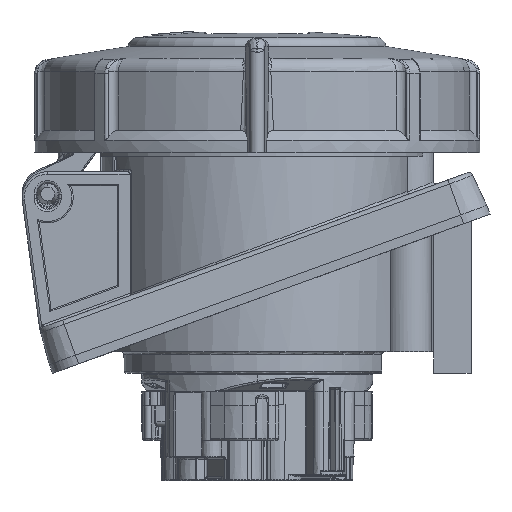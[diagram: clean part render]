
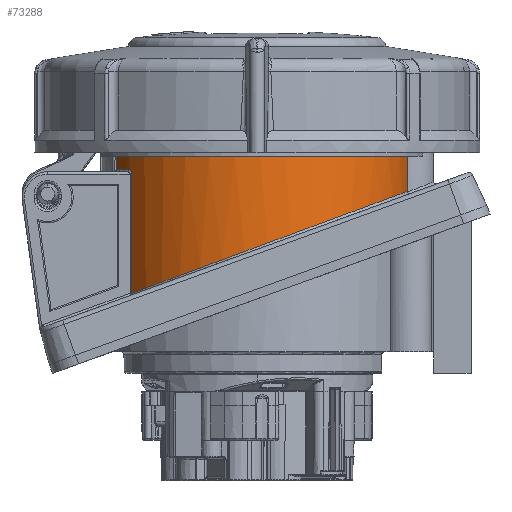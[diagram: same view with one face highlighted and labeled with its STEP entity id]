
A CAD part, left-side view. The second image highlights one B-rep face of the part: STEP entity #73288.
In plain terms, the highlighted cylindrical face has radius 32.75 mm (diameter 65.5 mm), a partial arc.
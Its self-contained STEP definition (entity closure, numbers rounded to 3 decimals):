
#1239=CARTESIAN_POINT('',(-18.714,26.876,12.614));
#1240=CARTESIAN_POINT('',(-19.423,26.383,12.796));
#1241=CARTESIAN_POINT('',(-20.805,25.337,13.183));
#1242=CARTESIAN_POINT('',(-22.76,23.598,13.826));
#1243=CARTESIAN_POINT('',(-24.58,21.695,14.528));
#1244=CARTESIAN_POINT('',(-26.253,19.64,15.288));
#1245=CARTESIAN_POINT('',(-27.762,17.442,16.1));
#1246=CARTESIAN_POINT('',(-29.095,15.115,16.96));
#1247=CARTESIAN_POINT('',(-30.238,12.674,17.862));
#1248=CARTESIAN_POINT('',(-31.181,10.136,18.8));
#1249=CARTESIAN_POINT('',(-31.914,7.519,19.767));
#1250=CARTESIAN_POINT('',(-32.428,4.843,20.756));
#1251=CARTESIAN_POINT('',(-32.719,2.129,21.759));
#1252=CARTESIAN_POINT('',(-32.782,-0.603,
22.768));
#1253=CARTESIAN_POINT('',(-32.618,-3.33,
23.776));
#1254=CARTESIAN_POINT('',(-32.229,-6.03,
24.774));
#1255=CARTESIAN_POINT('',(-31.617,-8.682,
25.754));
#1256=CARTESIAN_POINT('',(-30.791,-11.266,
26.709));
#1257=CARTESIAN_POINT('',(-29.758,-13.763,
27.631));
#1258=CARTESIAN_POINT('',(-28.53,-16.155,
28.515));
#1259=CARTESIAN_POINT('',(-27.118,-18.426,
29.355));
#1260=CARTESIAN_POINT('',(-25.536,-20.563,
30.144));
#1261=CARTESIAN_POINT('',(-23.797,-22.552,
30.879));
#1262=CARTESIAN_POINT('',(-21.916,-24.383,
31.556));
#1263=CARTESIAN_POINT('',(-19.908,-26.048,
32.171));
#1264=CARTESIAN_POINT('',(-17.787,-27.539,
32.722));
#1265=CARTESIAN_POINT('',(-15.569,-28.851,
33.207));
#1266=CARTESIAN_POINT('',(-13.267,-29.979,
33.624));
#1267=CARTESIAN_POINT('',(-10.896,-30.919,
33.971));
#1268=CARTESIAN_POINT('',(-8.469,-31.67,
34.248));
#1269=CARTESIAN_POINT('',(-6.823,-32.043,
34.386));
#1270=CARTESIAN_POINT('',(-5.995,-32.197,
34.443));
#1288=DIRECTION('',(0.,0.,1.));
#1289=VECTOR('',#1288,25.586);
#1290=CARTESIAN_POINT('',(-18.714,26.876,12.614));
#1291=LINE('5682',#1290,#1289);
#5473=DIRECTION('',(0.,0.,1.));
#5474=VECTOR('',#5473,7.557);
#5475=CARTESIAN_POINT('',(-5.995,-32.197,
34.443));
#5476=LINE('5668',#5475,#5474);
#9092=CARTESIAN_POINT('',(-18.714,26.876,38.2));
#9093=CARTESIAN_POINT('',(-18.714,26.876,38.251));
#9094=CARTESIAN_POINT('',(-18.707,26.882,38.353));
#9095=CARTESIAN_POINT('',(-18.671,26.906,38.507));
#9096=CARTESIAN_POINT('',(-18.61,26.949,38.658));
#9097=CARTESIAN_POINT('',(-18.523,27.009,38.801));
#9098=CARTESIAN_POINT('',(-18.407,27.088,38.933));
#9099=CARTESIAN_POINT('',(-18.266,27.183,39.046));
#9100=CARTESIAN_POINT('',(-18.101,27.294,39.133));
#9101=CARTESIAN_POINT('',(-17.918,27.414,39.188));
#9102=CARTESIAN_POINT('',(-17.793,27.495,39.2));
#9103=CARTESIAN_POINT('',(-17.729,27.536,39.2));
#9136=CARTESIAN_POINT('',(0.,0.,39.2));
#9137=DIRECTION('',(0.,0.,-1.));
#9138=DIRECTION('',(-0.541,0.841,0.));
#9139=AXIS2_PLACEMENT_3D('',#9136,#9137,#9138);
#9276=CARTESIAN_POINT('',(0.,0.,42.));
#9277=DIRECTION('',(0.,0.,-1.));
#9278=DIRECTION('',(-0.183,-0.983,0.));
#9279=AXIS2_PLACEMENT_3D('',#9276,#9277,#9278);
#9281=DIRECTION('',(0.,0.,1.));
#9282=VECTOR('',#9281,2.8);
#9283=CARTESIAN_POINT('',(-12.65,30.208,39.2));
#9284=LINE('5629',#9283,#9282);
#45464=CARTESIAN_POINT('',(-5.995,-32.197,42.));
#45466=VERTEX_POINT('',#45464);
#45474=CARTESIAN_POINT('',(-12.65,30.208,42.));
#45475=VERTEX_POINT('',#45474);
#47388=CARTESIAN_POINT('',(-17.729,27.536,39.2));
#47389=CARTESIAN_POINT('',(-12.65,30.208,39.2));
#47390=VERTEX_POINT('',#47388);
#47391=VERTEX_POINT('',#47389);
#47397=VERTEX_POINT('',#9092);
#47414=CARTESIAN_POINT('',(-18.714,26.876,
12.614));
#47415=VERTEX_POINT('',#47414);
#47417=VERTEX_POINT('',#1270);
#73270=CARTESIAN_POINT('',(0.,0.,0.));
#73271=DIRECTION('',(0.,0.,1.));
#73272=DIRECTION('',(1.,0.,0.));
#73273=AXIS2_PLACEMENT_3D('',#73270,#73271,#73272);
#73274=CYLINDRICAL_SURFACE('3410',#73273,32.75);
#73275=ORIENTED_EDGE('5652',*,*,#55848,.F.);
#73276=ORIENTED_EDGE('5682',*,*,#55902,.T.);
#73278=ORIENTED_EDGE('5627',*,*,#73277,.T.);
#73280=ORIENTED_EDGE('5623',*,*,#73279,.T.);
#73282=ORIENTED_EDGE('5629',*,*,#73281,.T.);
#73284=ORIENTED_EDGE('3686',*,*,#73283,.F.);
#73285=ORIENTED_EDGE('5668',*,*,#65456,.F.);
#73286=EDGE_LOOP('3410',(#73275,#73276,#73278,#73280,#73282,#73284,#73285));
#73287=FACE_OUTER_BOUND('3410',#73286,.F.);
#1271=B_SPLINE_CURVE_WITH_KNOTS('5652',3,(#1239,#1240,#1241,#1242,#1243,#1244,
#1245,#1246,#1247,#1248,#1249,#1250,#1251,#1252,#1253,#1254,#1255,#1256,#1257,
#1258,#1259,#1260,#1261,#1262,#1263,#1264,#1265,#1266,#1267,#1268,#1269,#1270),
.UNSPECIFIED.,.F.,.F.,(4,1,1,1,1,1,1,1,1,1,1,1,1,1,1,1,1,1,1,1,1,1,1,1,1,1,1,1,
1,4),(0.,0.034,0.069,0.103,
0.138,0.172,0.207,0.241,
0.276,0.31,0.345,0.379,
0.414,0.448,0.483,0.517,
0.552,0.586,0.621,0.655,
0.69,0.724,0.759,0.793,
0.828,0.862,0.897,0.931,
0.966,1.),.UNSPECIFIED.);
#9104=B_SPLINE_CURVE_WITH_KNOTS('5627',3,(#9092,#9093,#9094,#9095,#9096,#9097,
#9098,#9099,#9100,#9101,#9102,#9103),.UNSPECIFIED.,.F.,.F.,(4,1,1,1,1,1,1,1,1,
4),(0.,0.111,0.222,0.333,
0.444,0.556,0.667,0.778,
0.889,1.),.UNSPECIFIED.);
#9140=CIRCLE('5623',#9139,32.75);
#9280=CIRCLE('3686',#9279,32.75);
#55848=EDGE_CURVE('5652',#47415,#47417,#1271,.T.);
#55902=EDGE_CURVE('5682',#47415,#47397,#1291,.T.);
#65456=EDGE_CURVE('5668',#47417,#45466,#5476,.T.);
#73277=EDGE_CURVE('5627',#47397,#47390,#9104,.T.);
#73279=EDGE_CURVE('5623',#47390,#47391,#9140,.T.);
#73281=EDGE_CURVE('5629',#47391,#45475,#9284,.T.);
#73283=EDGE_CURVE('3686',#45466,#45475,#9280,.T.);
#73288=ADVANCED_FACE('3410',(#73287),#73274,.T.);
